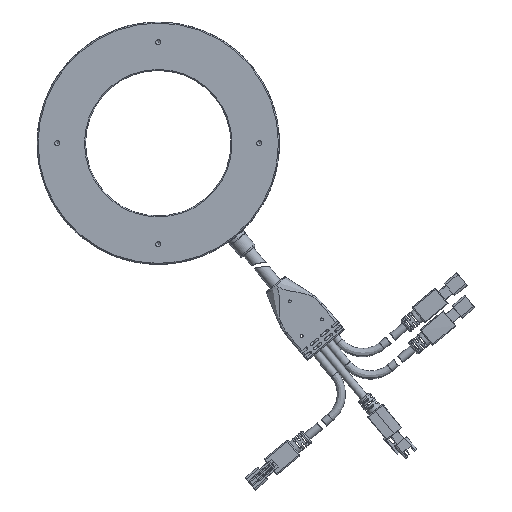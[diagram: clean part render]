
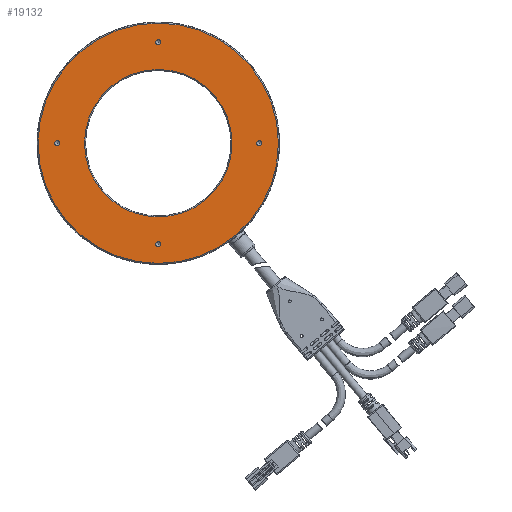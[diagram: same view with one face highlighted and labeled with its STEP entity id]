
A CAD part, front view. The second image highlights one B-rep face of the part: STEP entity #19132.
In plain terms, the highlighted planar face has unit normal (0, -1, 0).
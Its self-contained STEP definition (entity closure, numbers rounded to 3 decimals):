
#2048 = DIRECTION ( 'NONE',  ( 0., 0., 1. ) ) ;
#2299 = VERTEX_POINT ( 'NONE', #31811 ) ;
#2808 = EDGE_LOOP ( 'NONE', ( #31637 ) ) ;
#5184 = DIRECTION ( 'NONE',  ( 0., 0., 1. ) ) ;
#6624 = PLANE ( 'NONE',  #36973 ) ;
#6722 = DIRECTION ( 'NONE',  ( 0., 1., 0. ) ) ;
#7525 = FACE_BOUND ( 'NONE', #33243, .T. ) ;
#7648 = AXIS2_PLACEMENT_3D ( 'NONE', #33943, #34336, #20098 ) ;
#8070 = CARTESIAN_POINT ( 'NONE',  ( -50., 19.364, 1.25 ) ) ;
#8890 = AXIS2_PLACEMENT_3D ( 'NONE', #16061, #16663, #57256 ) ;
#10149 = CIRCLE ( 'NONE', #39081, 36.5 ) ;
#10997 = ORIENTED_EDGE ( 'NONE', *, *, #33182, .T. ) ;
#11667 = CARTESIAN_POINT ( 'NONE',  ( 0., 19.364, 0. ) ) ;
#11874 = DIRECTION ( 'NONE',  ( 0., 0., 1. ) ) ;
#12072 = CIRCLE ( 'NONE', #47095, 59.5 ) ;
#12429 = VERTEX_POINT ( 'NONE', #41240 ) ;
#13214 = EDGE_LOOP ( 'NONE', ( #45600 ) ) ;
#16061 = CARTESIAN_POINT ( 'NONE',  ( 0., 19.364, 50. ) ) ;
#16663 = DIRECTION ( 'NONE',  ( 0., 1., 0. ) ) ;
#16843 = VERTEX_POINT ( 'NONE', #39231 ) ;
#18003 = CARTESIAN_POINT ( 'NONE',  ( 0., 19.364, -48.75 ) ) ;
#19132 = ADVANCED_FACE ( 'NONE', ( #21923, #22666, #27677, #7525, #41343, #52150 ), #6624, .F. ) ;
#19140 = ORIENTED_EDGE ( 'NONE', *, *, #19702, .T. ) ;
#19395 = AXIS2_PLACEMENT_3D ( 'NONE', #55498, #41774, #5184 ) ;
#19702 = EDGE_CURVE ( 'NONE', #16843, #16843, #57847, .T. ) ;
#20098 = DIRECTION ( 'NONE',  ( 0., 0., 1. ) ) ;
#20214 = CARTESIAN_POINT ( 'NONE',  ( 0., 19.364, 0. ) ) ;
#21923 = FACE_BOUND ( 'NONE', #2808, .T. ) ;
#22486 = EDGE_LOOP ( 'NONE', ( #35404 ) ) ;
#22666 = FACE_OUTER_BOUND ( 'NONE', #51890, .T. ) ;
#23085 = DIRECTION ( 'NONE',  ( 0., 0., 1. ) ) ;
#23852 = CIRCLE ( 'NONE', #34168, 1.25 ) ;
#23923 = VERTEX_POINT ( 'NONE', #18003 ) ;
#24682 = EDGE_CURVE ( 'NONE', #42652, #42652, #10149, .T. ) ;
#25536 = CIRCLE ( 'NONE', #7648, 1.25 ) ;
#27677 = FACE_BOUND ( 'NONE', #13214, .T. ) ;
#28846 = DIRECTION ( 'NONE',  ( 0., 1., 0. ) ) ;
#29213 = EDGE_CURVE ( 'NONE', #23923, #23923, #25536, .T. ) ;
#31152 = VERTEX_POINT ( 'NONE', #8070 ) ;
#31637 = ORIENTED_EDGE ( 'NONE', *, *, #24682, .T. ) ;
#31811 = CARTESIAN_POINT ( 'NONE',  ( 0., 19.364, 59.5 ) ) ;
#32929 = EDGE_CURVE ( 'NONE', #31152, #31152, #50203, .T. ) ;
#33182 = EDGE_CURVE ( 'NONE', #2299, #2299, #12072, .T. ) ;
#33243 = EDGE_LOOP ( 'NONE', ( #38362 ) ) ;
#33943 = CARTESIAN_POINT ( 'NONE',  ( 0., 19.364, -50. ) ) ;
#34168 = AXIS2_PLACEMENT_3D ( 'NONE', #47536, #6722, #2048 ) ;
#34336 = DIRECTION ( 'NONE',  ( 0., 1., 0. ) ) ;
#35404 = ORIENTED_EDGE ( 'NONE', *, *, #54263, .T. ) ;
#36041 = CARTESIAN_POINT ( 'NONE',  ( 0., 19.364, 36.5 ) ) ;
#36973 = AXIS2_PLACEMENT_3D ( 'NONE', #11667, #43787, #11874 ) ;
#38362 = ORIENTED_EDGE ( 'NONE', *, *, #32929, .T. ) ;
#39081 = AXIS2_PLACEMENT_3D ( 'NONE', #20214, #28846, #47723 ) ;
#39231 = CARTESIAN_POINT ( 'NONE',  ( 0., 19.364, 51.25 ) ) ;
#41240 = CARTESIAN_POINT ( 'NONE',  ( 50., 19.364, 1.25 ) ) ;
#41343 = FACE_BOUND ( 'NONE', #44196, .T. ) ;
#41774 = DIRECTION ( 'NONE',  ( 0., 1., 0. ) ) ;
#42652 = VERTEX_POINT ( 'NONE', #36041 ) ;
#43787 = DIRECTION ( 'NONE',  ( 0., 1., 0. ) ) ;
#44196 = EDGE_LOOP ( 'NONE', ( #19140 ) ) ;
#45054 = CARTESIAN_POINT ( 'NONE',  ( 0., 19.364, 0. ) ) ;
#45600 = ORIENTED_EDGE ( 'NONE', *, *, #29213, .T. ) ;
#47095 = AXIS2_PLACEMENT_3D ( 'NONE', #45054, #50824, #23085 ) ;
#47536 = CARTESIAN_POINT ( 'NONE',  ( 50., 19.364, 0. ) ) ;
#47723 = DIRECTION ( 'NONE',  ( 0., 0., 1. ) ) ;
#50203 = CIRCLE ( 'NONE', #19395, 1.25 ) ;
#50824 = DIRECTION ( 'NONE',  ( 0., -1., 0. ) ) ;
#51890 = EDGE_LOOP ( 'NONE', ( #10997 ) ) ;
#52150 = FACE_BOUND ( 'NONE', #22486, .T. ) ;
#54263 = EDGE_CURVE ( 'NONE', #12429, #12429, #23852, .T. ) ;
#55498 = CARTESIAN_POINT ( 'NONE',  ( -50., 19.364, 0. ) ) ;
#57256 = DIRECTION ( 'NONE',  ( 0., 0., 1. ) ) ;
#57847 = CIRCLE ( 'NONE', #8890, 1.25 ) ;
